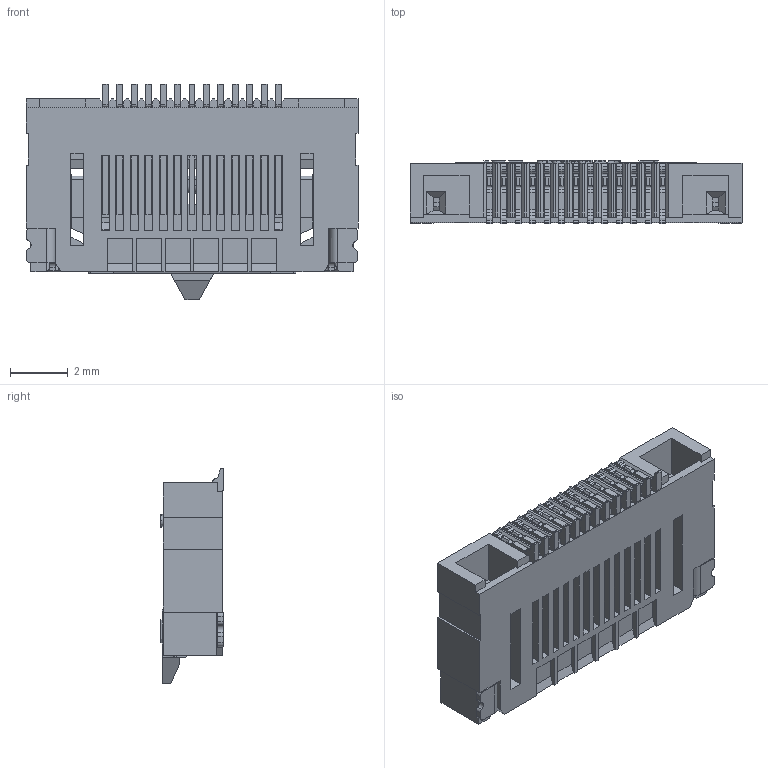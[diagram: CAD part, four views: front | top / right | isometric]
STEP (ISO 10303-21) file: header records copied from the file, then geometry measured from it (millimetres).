
FILE_DESCRIPTION (( 'STEP AP203' ), '1' );
FILE_NAME ('GT-F0515SR22-13S0101.STEP', '2024-01-15T02:20:20', ( 'Microsoft' ), ( 'Microsoft' ), 'SwSTEP 2.0', 'SolidWorks 2023', '' );
FILE_SCHEMA (( 'CONFIG_CONTROL_DESIGN' ));
Length unit declared in the file: millimetre
Products named in the file (1): GT-F0515SR22-13S0101
Bounding box: 11.5 x 2.2 x 7.48 mm (x, y, z)
Volume: 94.1 mm3; surface area: 612.6 mm2
Topology: 1 solids, 1 shells, 1833 faces, 5780 edges, 3795 vertices
Faces by surface type: plane 1184, cylinder 575, bspline 74
Entity records: 68233 total; most frequent: CARTESIAN_POINT 16075, ORIENTED_EDGE 11560, DIRECTION 10252, EDGE_CURVE 5780, LINE 4360, VECTOR 4360, VERTEX_POINT 3795, AXIS2_PLACEMENT_3D 2946
